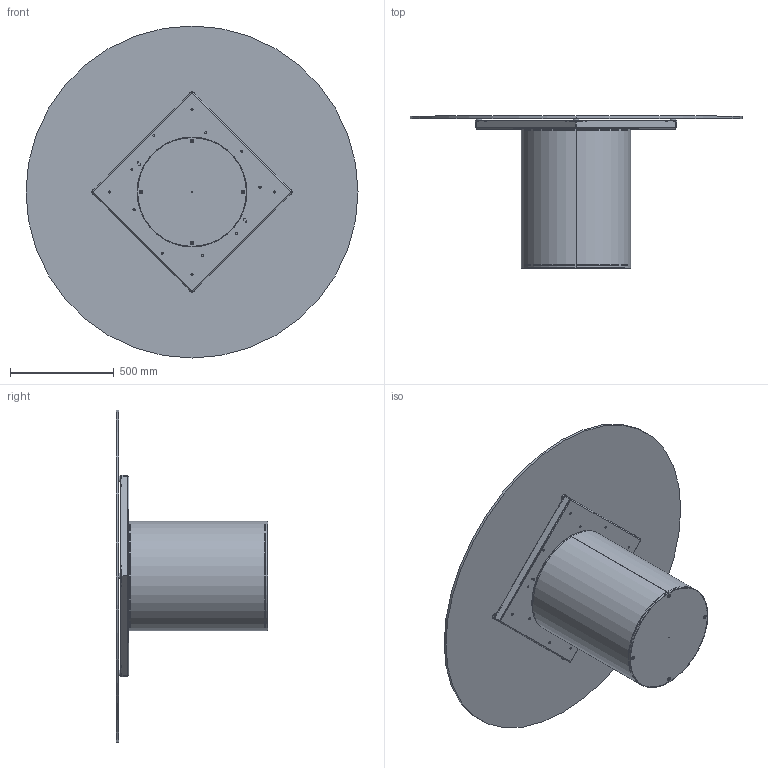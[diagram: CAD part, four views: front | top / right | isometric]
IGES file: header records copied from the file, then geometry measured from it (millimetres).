
Start section: SolidWorks IGES file using analytic representation for surfaces
Global section: file name: Y:\eforma\TECNICO\SOLIDWORKS\E-FORMA\1-TAVOLI\CILINDRO\02 parts\CI08G.IGS; native system: SolidWorks 2022; preprocessor: SolidWorks 2022; author: eforma.tech; date: 240808.090236; units: millimetre
Bounding box: 1600 x 732 x 1600 mm (x, y, z)
Volume: 31448761.6 mm3; surface area: 8225728.5 mm2
Topology: 23 solids, 23 shells, 704 faces, 1782 edges, 1106 vertices
Faces by surface type: revolution 372, plane 332
